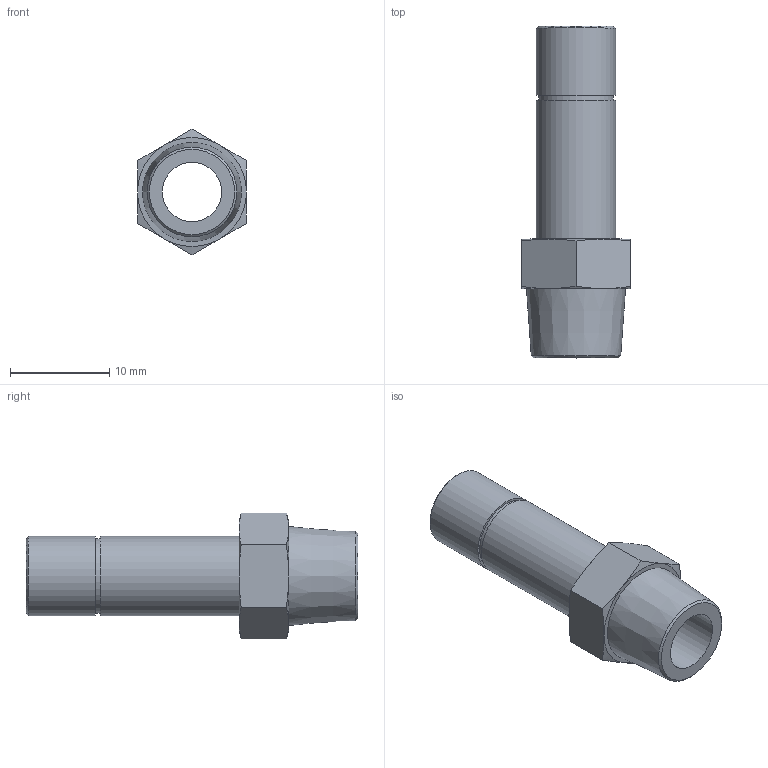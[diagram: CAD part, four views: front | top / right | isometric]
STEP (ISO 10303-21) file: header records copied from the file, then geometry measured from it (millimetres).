
FILE_DESCRIPTION(/* description */ (''),/* implementation_level */ '2;1');
FILE_NAME(/* name */ 'LXH15 0008 B1.stp',/* time_stamp */ '2026-04-28T15:43:57+02:00',/* author */ ('freju'),/* organization */ (''),/* preprocessor_version */ 'ST-DEVELOPER v20.1',/* originating_system */ 'Autodesk Inventor 2026',/* authorisation */ '');
FILE_SCHEMA (('AUTOMOTIVE_DESIGN { 1 0 10303 214 3 1 1 }'));
Length unit declared in the file: millimetre
Products named in the file (1): LXH15 0008 B1
Bounding box: 11 x 33.5 x 12.7 mm (x, y, z)
Volume: 1148.8 mm3; surface area: 1710.2 mm2
Topology: 1 solids, 1 shells, 31 faces, 63 edges, 38 vertices
Faces by surface type: cone 15, plane 12, cylinder 4
Full cylindrical faces by diameter (mm): 6 x1, 7.5 x1, 8 x2
Entity records: 830 total; most frequent: CARTESIAN_POINT 181, DIRECTION 129, ORIENTED_EDGE 126, EDGE_CURVE 63, AXIS2_PLACEMENT_3D 58, VERTEX_POINT 38, EDGE_LOOP 37, FACE_OUTER_BOUND 31
